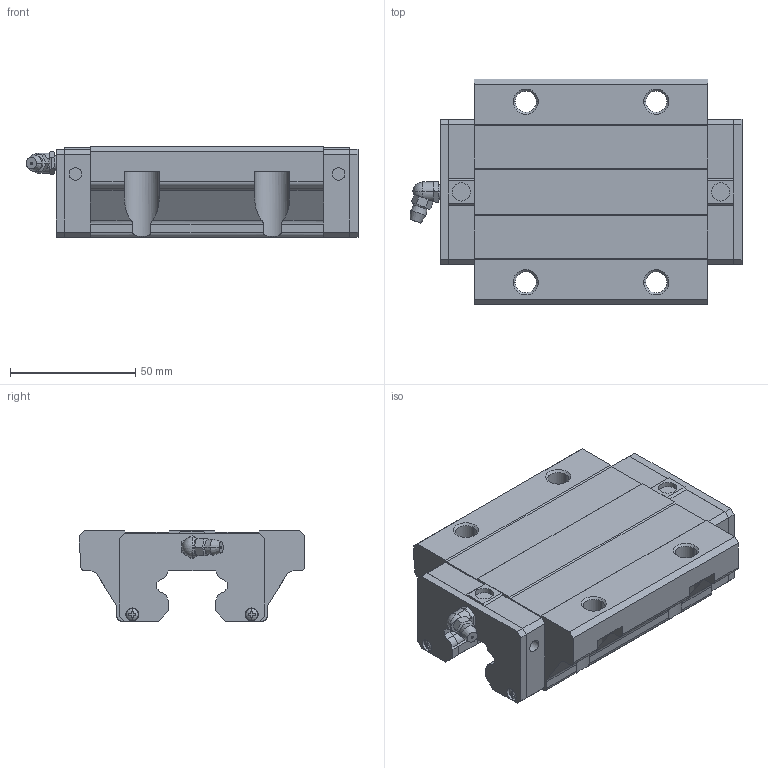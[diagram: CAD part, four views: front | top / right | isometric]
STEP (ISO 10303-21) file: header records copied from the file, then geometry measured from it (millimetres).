
FILE_DESCRIPTION(('starvars output'),'2;1');
FILE_NAME('cv20190625230731000114007.stp','23:07:32 2019/06/25',( 'Thomas Industrial Network Germany GmbH'),( 'Thomas Industrial Network Germany GmbH'),'unknown preprocess','ACIS' ,'unknown authorization');
FILE_SCHEMA(('CONFIG_CONTROL_DESIGN {UNKNOWN IMPLEMENTATION LEVEL}'));
Length unit declared in the file: millimetre
Products named in the file (10): PRODUCT_ID_1; PRODUCT_ID_2; PRODUCT_ID_3; PRODUCT_ID_4; PRODUCT_ID_5; PRODUCT_ID_6; PRODUCT_ID_7; PRODUCT_ID_8; PRODUCT_ID_9; PRODUCT_ID_10
Bounding box: 132.4 x 90 x 36 mm (x, y, z)
Volume: 246064 mm3; surface area: 52710.1 mm2
Topology: 10 solids, 10 shells, 409 faces, 1072 edges, 692 vertices
Faces by surface type: plane 262, cylinder 79, cone 56, sphere 12
Entity records: 12225 total; most frequent: CARTESIAN_POINT 2151, ORIENTED_EDGE 2136, DIRECTION 1645, EDGE_CURVE 1068, VERTEX_POINT 692, VECTOR 677, LINE 677, AXIS2_PLACEMENT_3D 484
